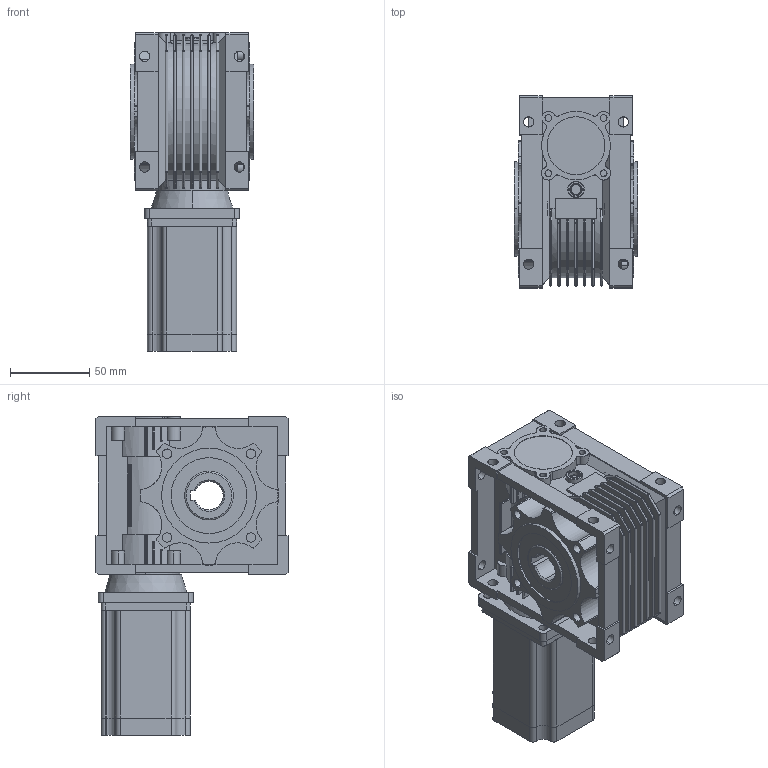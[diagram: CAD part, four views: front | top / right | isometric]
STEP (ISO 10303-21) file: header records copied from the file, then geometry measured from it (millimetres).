
FILE_DESCRIPTION (( 'STEP AP203' ), '1' );
FILE_NAME ('NMRV40-EA5722A郪磁.STEP', '2023-12-05T07:53:44', ( '' ), ( '' ), 'SwSTEP 2.0', 'SolidWorks 2020', '' );
FILE_SCHEMA (( 'CONFIG_CONTROL_DESIGN' ));
Length unit declared in the file: millimetre
Products named in the file (3): NMRV40-EA5722A郪磁; NMRV40／60X60／50-14(蜗轮蜗杆减速机).stp; EA5722A.step
Assembly tree (2 placements, depth 2):
  NMRV40-EA5722A郪磁
    NMRV40／60X60／50-14(蜗轮蜗杆减速机).stp
    EA5722A.step
Bounding box: 78 x 121.5 x 201.7 mm (x, y, z)
Volume: 872944.5 mm3; surface area: 180843.5 mm2
Topology: 5 solids, 6 shells, 1035 faces, 2731 edges, 1695 vertices
Faces by surface type: cylinder 492, plane 421, sphere 77, torus 32, cone 13
Entity records: 32806 total; most frequent: CARTESIAN_POINT 6731, DIRECTION 5612, ORIENTED_EDGE 5322, EDGE_CURVE 2661, AXIS2_PLACEMENT_3D 2059, VERTEX_POINT 1688, LINE 1494, VECTOR 1494
